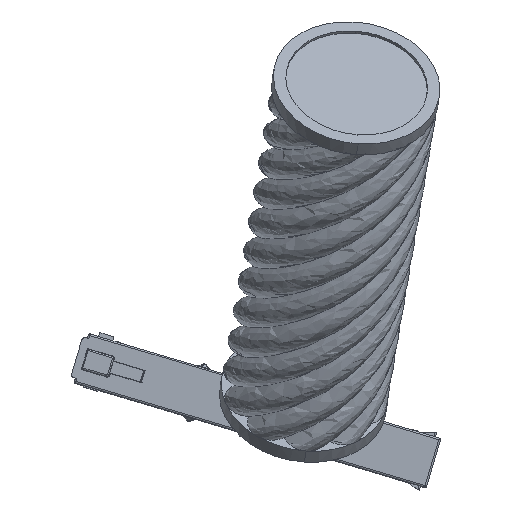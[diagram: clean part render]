
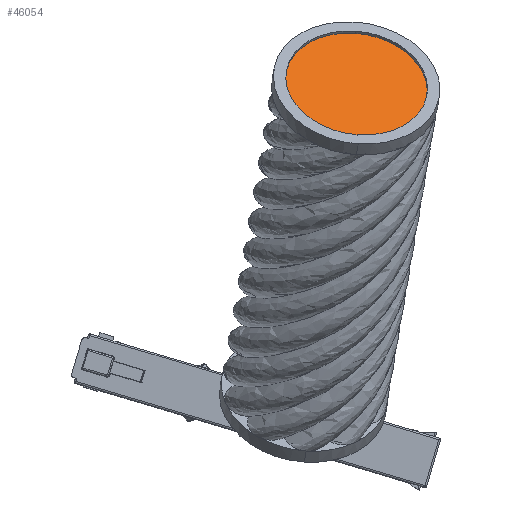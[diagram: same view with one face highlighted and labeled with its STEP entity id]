
A CAD part, left-side view. The second image highlights one B-rep face of the part: STEP entity #46054.
In plain terms, the highlighted planar face has unit normal (-0.72, -0.116, 0.684) as drawn and (0, -1, 0) by its records, which use the part's own axes.
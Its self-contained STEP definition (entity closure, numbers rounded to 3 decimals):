
#4837 = AXIS2_PLACEMENT_3D ( 'NONE', #55985, #21357, #62438 ) ;
#15559 = CARTESIAN_POINT ( 'NONE',  ( 0., -4., -22.26 ) ) ;
#16991 = CARTESIAN_POINT ( 'NONE',  ( 0., -4., 0. ) ) ;
#20402 = AXIS2_PLACEMENT_3D ( 'NONE', #48426, #68929, #90204 ) ;
#21357 = DIRECTION ( 'NONE',  ( 0., -1., 0. ) ) ;
#25005 = CIRCLE ( 'NONE', #20402, 22.26 ) ;
#30233 = DIRECTION ( 'NONE',  ( 0., 0., -1. ) ) ;
#36455 = ORIENTED_EDGE ( 'NONE', *, *, #81013, .T. ) ;
#46054 = ADVANCED_FACE ( 'NONE', ( #83938 ), #63344, .T. ) ;
#48426 = CARTESIAN_POINT ( 'NONE',  ( 0., -4., 0. ) ) ;
#55985 = CARTESIAN_POINT ( 'NONE',  ( 0., -4., 0. ) ) ;
#60300 = EDGE_LOOP ( 'NONE', ( #71786, #36455 ) ) ;
#62438 = DIRECTION ( 'NONE',  ( 0., 0., -1. ) ) ;
#63344 = PLANE ( 'NONE',  #4837 ) ;
#63912 = CIRCLE ( 'NONE', #78448, 22.26 ) ;
#67356 = EDGE_CURVE ( 'NONE', #82267, #72714, #63912, .T. ) ;
#68929 = DIRECTION ( 'NONE',  ( 0., -1., 0. ) ) ;
#71786 = ORIENTED_EDGE ( 'NONE', *, *, #67356, .T. ) ;
#72499 = DIRECTION ( 'NONE',  ( 0., -1., 0. ) ) ;
#72714 = VERTEX_POINT ( 'NONE', #85477 ) ;
#78448 = AXIS2_PLACEMENT_3D ( 'NONE', #16991, #72499, #30233 ) ;
#81013 = EDGE_CURVE ( 'NONE', #72714, #82267, #25005, .T. ) ;
#82267 = VERTEX_POINT ( 'NONE', #15559 ) ;
#83938 = FACE_OUTER_BOUND ( 'NONE', #60300, .T. ) ;
#85477 = CARTESIAN_POINT ( 'NONE',  ( 0., -4., 22.26 ) ) ;
#90204 = DIRECTION ( 'NONE',  ( 0., 0., -1. ) ) ;
